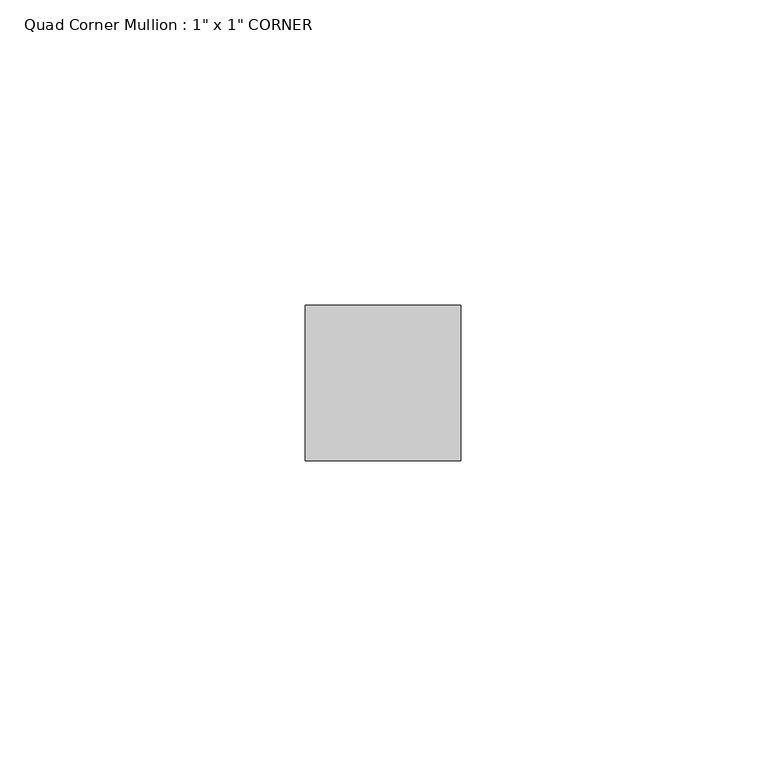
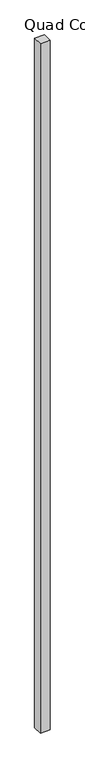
"""IFC4 building model written with IfcOpenShell, lengths in millimetres: member geometry."""

from ifc_helpers import new_model, si_unit, frame, origin, place, context, project, spatial, polyline, outline, extrude, source, transform, mapped, element, save


def member_7abc3174(model_context):
    return source(origin(), model_context, "Body", "SweptSolid", [
        extrude(outline(polyline([(0.0, 25.4), (0.0, 0.0), (-25.4, 0.0), (-25.4, 25.4), (0.0, 25.4)])), frame((0.0, 0.0, -1904.999999), z_axis=(0.0, 0.0, 1.0), x_axis=(1.0, 0.0, 0.0)), (0.0, 0.0, 1.0), 1904.999999),
    ])


if __name__ == "__main__":
    model = new_model("IFC4")
    model_context = context("Model", 3, world=origin())
    ifc_project = project(units=[si_unit("LENGTHUNIT", "METRE", prefix="MILLI")], contexts=[model_context])
    site = spatial("IfcSite", under=ifc_project)
    building = spatial("IfcBuilding", under=site)
    placement = place(None, origin())
    member_shape = member_7abc3174(model_context)
    element("IfcMember", 1, ObjectType="Quad Corner Mullion : 1\" x 1\" CORNER", at=placement, inside=building, context=model_context, shape_type="MappedRepresentation", body=[
        mapped(member_shape, transform((0.0, 0.0, 0.0), x_axis=(1.0, 0.0, 0.0), y_axis=(0.0, 1.0, 0.0), z_axis=(0.0, 0.0, 1.0))),
    ])
    save(model, "model.ifc")
